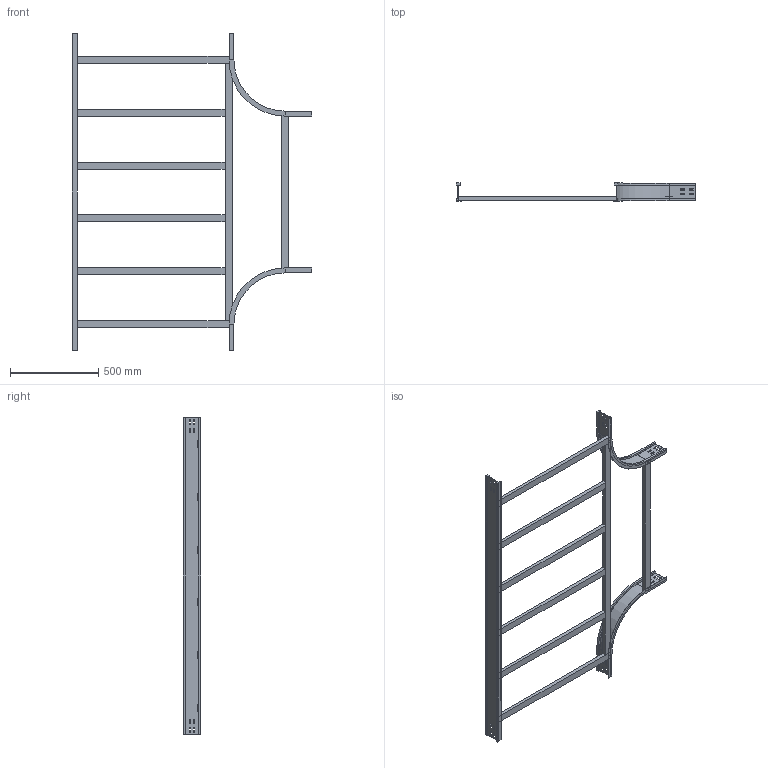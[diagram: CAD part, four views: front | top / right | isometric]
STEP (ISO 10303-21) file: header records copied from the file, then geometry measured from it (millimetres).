
FILE_DESCRIPTION (( 'STEP AP214' ), '1' );
FILE_NAME ('15S3D900.step', '2025-02-21T16:12:46', ( '' ), ( '' ), 'SwSTEP 2.0', 'SolidWorks 2023', '' );
FILE_SCHEMA (( 'AUTOMOTIVE_DESIGN' ));
Length unit declared in the file: millimetre
Products named in the file (6): TRAVERSINO_900; LONGH.INTERNO 90°_H100_R300; LONGH.RETT_H100_R300+900; 15S3D900; TRAVERSINO_INTERMEDIO_R300+900; TRAVERSINO_LONG._R300+900
Assembly tree (11 placements, depth 2):
  15S3D900
    LONGH.INTERNO 90°_H100_R300  x2
    LONGH.RETT_H100_R300+900
    TRAVERSINO_900  x3
    TRAVERSINO_LONG._R300+900
    TRAVERSINO_INTERMEDIO_R300+900  x4
Bounding box: 1359 x 100 x 1800 mm (x, y, z)
Volume: 7902502.1 mm3; surface area: 1918719.6 mm2
Topology: 11 solids, 11 shells, 234 faces, 588 edges, 376 vertices
Faces by surface type: plane 222, cylinder 12
Entity records: 4291 total; most frequent: CARTESIAN_POINT 720, ORIENTED_EDGE 696, DIRECTION 656, EDGE_CURVE 348, LINE 336, VECTOR 336, VERTEX_POINT 224, EDGE_LOOP 166
